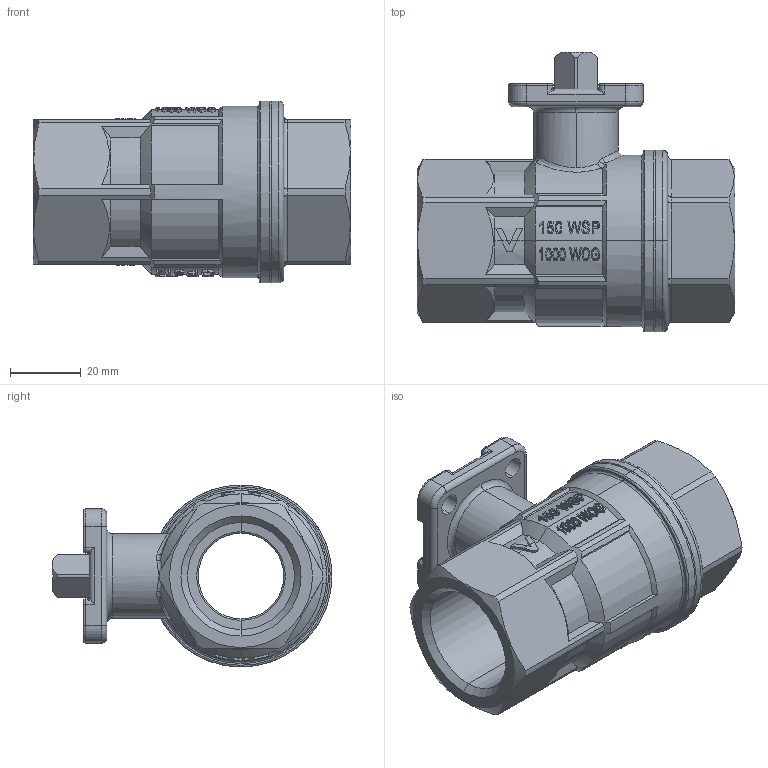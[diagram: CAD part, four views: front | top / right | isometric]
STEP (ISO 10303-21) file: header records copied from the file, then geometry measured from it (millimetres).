
FILE_DESCRIPTION (( 'STEP AP203' ), '1' );
FILE_NAME ('70300006.STEP', '2009-02-19T10:33:54', ( '.' ), ( '.' ), 'SwSTEP 2.0', 'SolidWorks 2008', '' );
FILE_SCHEMA (( 'CONFIG_CONTROL_DESIGN' ));
Length unit declared in the file: millimetre
Products named in the file (1): 70300006
Bounding box: 90 x 79.25 x 51.5 mm (x, y, z)
Volume: 98682 mm3; surface area: 42034.5 mm2
Topology: 2 solids, 2 shells, 879 faces, 2254 edges, 1407 vertices
Faces by surface type: bspline 349, plane 230, cylinder 213, cone 84, sphere 3
Entity records: 73335 total; most frequent: CARTESIAN_POINT 54645, ORIENTED_EDGE 4424, DIRECTION 2995, EDGE_CURVE 2212, VERTEX_POINT 1401, AXIS2_PLACEMENT_3D 1069, EDGE_LOOP 955, FACE_OUTER_BOUND 879
